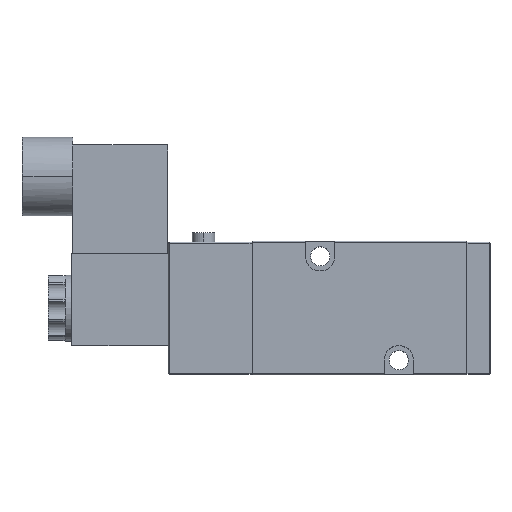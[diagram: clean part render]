
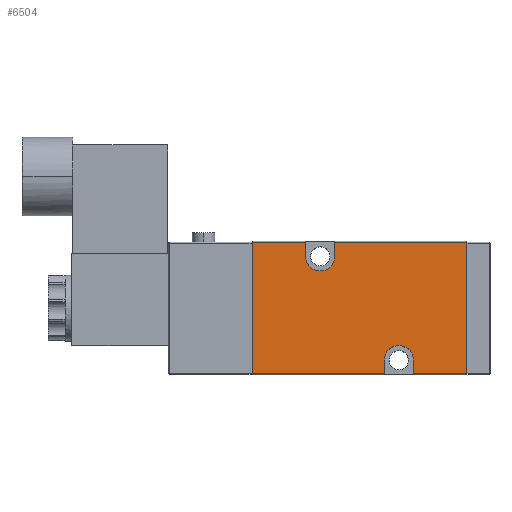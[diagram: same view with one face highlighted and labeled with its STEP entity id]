
A CAD part, top view. The second image highlights one B-rep face of the part: STEP entity #6504.
In plain terms, the highlighted planar face has unit normal (0, 0, 1).
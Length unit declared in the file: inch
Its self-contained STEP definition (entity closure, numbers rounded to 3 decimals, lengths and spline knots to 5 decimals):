
#67 = VERTEX_POINT ( 'NONE', #4156 ) ;
#159 = FACE_OUTER_BOUND ( 'NONE', #4361, .T. ) ;
#236 = DIRECTION ( 'NONE',  ( 1., 0., 0. ) ) ;
#245 = VERTEX_POINT ( 'NONE', #2979 ) ;
#327 = CIRCLE ( 'NONE', #5915, 0.175 ) ;
#359 = VECTOR ( 'NONE', #728, 39.37008 ) ;
#442 = VECTOR ( 'NONE', #3849, 39.37008 ) ;
#449 = DIRECTION ( 'NONE',  ( 1., 0., 0. ) ) ;
#454 = VECTOR ( 'NONE', #1100, 39.37008 ) ;
#531 = CARTESIAN_POINT ( 'NONE',  ( -1.285, -0.7975, 0.5315 ) ) ;
#699 = CARTESIAN_POINT ( 'NONE',  ( -1.285, 0.7975, 0.5315 ) ) ;
#728 = DIRECTION ( 'NONE',  ( -1., 0., 0. ) ) ;
#916 = LINE ( 'NONE', #5993, #3417 ) ;
#971 = VERTEX_POINT ( 'NONE', #2587 ) ;
#998 = CARTESIAN_POINT ( 'NONE',  ( -0.295, 0.7875, 0.5315 ) ) ;
#1028 = VERTEX_POINT ( 'NONE', #998 ) ;
#1079 = CARTESIAN_POINT ( 'NONE',  ( -0.645, -0.7975, 0.5315 ) ) ;
#1100 = DIRECTION ( 'NONE',  ( 1., 0., 0. ) ) ;
#1119 = CIRCLE ( 'NONE', #3648, 0.175 ) ;
#1191 = CARTESIAN_POINT ( 'NONE',  ( -0.295, 0.6185, 0.5315 ) ) ;
#1213 = VECTOR ( 'NONE', #3986, 39.37008 ) ;
#1377 = LINE ( 'NONE', #2472, #442 ) ;
#1451 = ORIENTED_EDGE ( 'NONE', *, *, #2771, .F. ) ;
#1522 = ORIENTED_EDGE ( 'NONE', *, *, #1642, .T. ) ;
#1593 = CARTESIAN_POINT ( 'NONE',  ( 0.295, -0.7875, 0.5315 ) ) ;
#1642 = EDGE_CURVE ( 'NONE', #4034, #5696, #3512, .T. ) ;
#1743 = DIRECTION ( 'NONE',  ( 0., 0., 1. ) ) ;
#1781 = CARTESIAN_POINT ( 'NONE',  ( 0.47, -0.6235, 0.5315 ) ) ;
#1860 = CARTESIAN_POINT ( 'NONE',  ( 1.285, -0.7875, 0.5315 ) ) ;
#2181 = AXIS2_PLACEMENT_3D ( 'NONE', #531, #1743, #5768 ) ;
#2293 = CARTESIAN_POINT ( 'NONE',  ( -1.285, 0.7875, 0.5315 ) ) ;
#2402 = EDGE_CURVE ( 'NONE', #5696, #5975, #5436, .T. ) ;
#2463 = VECTOR ( 'NONE', #3089, 39.37008 ) ;
#2472 = CARTESIAN_POINT ( 'NONE',  ( -0.295, 0.6185, 0.5315 ) ) ;
#2587 = CARTESIAN_POINT ( 'NONE',  ( -0.645, 0.7875, 0.5315 ) ) ;
#2624 = ORIENTED_EDGE ( 'NONE', *, *, #5821, .F. ) ;
#2712 = DIRECTION ( 'NONE',  ( 0., -1., 0. ) ) ;
#2722 = ORIENTED_EDGE ( 'NONE', *, *, #4618, .T. ) ;
#2771 = EDGE_CURVE ( 'NONE', #4369, #1028, #1377, .T. ) ;
#2828 = CARTESIAN_POINT ( 'NONE',  ( -0.295, 0.7875, 0.5315 ) ) ;
#2951 = VECTOR ( 'NONE', #3856, 39.37008 ) ;
#2975 = ORIENTED_EDGE ( 'NONE', *, *, #6113, .F. ) ;
#2979 = CARTESIAN_POINT ( 'NONE',  ( -0.645, 0.6185, 0.5315 ) ) ;
#3089 = DIRECTION ( 'NONE',  ( 0., -1., 0. ) ) ;
#3300 = DIRECTION ( 'NONE',  ( 1., 0., 0. ) ) ;
#3338 = VERTEX_POINT ( 'NONE', #3834 ) ;
#3342 = ORIENTED_EDGE ( 'NONE', *, *, #4530, .F. ) ;
#3402 = EDGE_CURVE ( 'NONE', #245, #4369, #327, .T. ) ;
#3417 = VECTOR ( 'NONE', #4928, 39.37008 ) ;
#3472 = VERTEX_POINT ( 'NONE', #4984 ) ;
#3510 = CARTESIAN_POINT ( 'NONE',  ( 0.645, -0.6235, 0.5315 ) ) ;
#3512 = LINE ( 'NONE', #4896, #5586 ) ;
#3648 = AXIS2_PLACEMENT_3D ( 'NONE', #1781, #5808, #3300 ) ;
#3730 = LINE ( 'NONE', #2828, #359 ) ;
#3787 = ORIENTED_EDGE ( 'NONE', *, *, #3402, .F. ) ;
#3834 = CARTESIAN_POINT ( 'NONE',  ( -1.285, 0.7875, 0.5315 ) ) ;
#3849 = DIRECTION ( 'NONE',  ( 0., 1., 0. ) ) ;
#3856 = DIRECTION ( 'NONE',  ( 0., 1., 0. ) ) ;
#3918 = CARTESIAN_POINT ( 'NONE',  ( 1.285, 0.7975, 0.5315 ) ) ;
#3986 = DIRECTION ( 'NONE',  ( 0., 1., 0. ) ) ;
#4023 = CARTESIAN_POINT ( 'NONE',  ( 0.645, -0.7875, 0.5315 ) ) ;
#4034 = VERTEX_POINT ( 'NONE', #4023 ) ;
#4134 = LINE ( 'NONE', #1079, #2463 ) ;
#4135 = EDGE_CURVE ( 'NONE', #67, #3472, #6095, .T. ) ;
#4156 = CARTESIAN_POINT ( 'NONE',  ( -1.285, -0.7875, 0.5315 ) ) ;
#4182 = PLANE ( 'NONE',  #2181 ) ;
#4342 = VERTEX_POINT ( 'NONE', #3510 ) ;
#4361 = EDGE_LOOP ( 'NONE', ( #4745, #5034, #2975, #2624, #6093, #1522, #5075, #5621, #1451, #3787, #3342, #2722 ) ) ;
#4369 = VERTEX_POINT ( 'NONE', #1191 ) ;
#4472 = CARTESIAN_POINT ( 'NONE',  ( 0.295, -0.6235, 0.5315 ) ) ;
#4530 = EDGE_CURVE ( 'NONE', #971, #245, #4134, .T. ) ;
#4618 = EDGE_CURVE ( 'NONE', #971, #3338, #6211, .T. ) ;
#4745 = ORIENTED_EDGE ( 'NONE', *, *, #5979, .T. ) ;
#4896 = CARTESIAN_POINT ( 'NONE',  ( 1.285, -0.7875, 0.5315 ) ) ;
#4928 = DIRECTION ( 'NONE',  ( 0., -1., 0. ) ) ;
#4984 = CARTESIAN_POINT ( 'NONE',  ( 0.295, -0.7875, 0.5315 ) ) ;
#5034 = ORIENTED_EDGE ( 'NONE', *, *, #4135, .T. ) ;
#5060 = EDGE_CURVE ( 'NONE', #4034, #4342, #6454, .T. ) ;
#5075 = ORIENTED_EDGE ( 'NONE', *, *, #2402, .T. ) ;
#5117 = CARTESIAN_POINT ( 'NONE',  ( 1.285, 0.7875, 0.5315 ) ) ;
#5209 = LINE ( 'NONE', #699, #5413 ) ;
#5222 = DIRECTION ( 'NONE',  ( 0., 0., 1. ) ) ;
#5342 = DIRECTION ( 'NONE',  ( -1., 0., 0. ) ) ;
#5413 = VECTOR ( 'NONE', #2712, 39.37008 ) ;
#5435 = CARTESIAN_POINT ( 'NONE',  ( 0.645, -0.7975, 0.5315 ) ) ;
#5436 = LINE ( 'NONE', #3918, #2951 ) ;
#5484 = VERTEX_POINT ( 'NONE', #4472 ) ;
#5586 = VECTOR ( 'NONE', #449, 39.37008 ) ;
#5621 = ORIENTED_EDGE ( 'NONE', *, *, #6026, .T. ) ;
#5696 = VERTEX_POINT ( 'NONE', #1860 ) ;
#5731 = VECTOR ( 'NONE', #5342, 39.37008 ) ;
#5768 = DIRECTION ( 'NONE',  ( 1., 0., 0. ) ) ;
#5808 = DIRECTION ( 'NONE',  ( 0., 0., 1. ) ) ;
#5821 = EDGE_CURVE ( 'NONE', #4342, #5484, #1119, .T. ) ;
#5915 = AXIS2_PLACEMENT_3D ( 'NONE', #6245, #5222, #236 ) ;
#5975 = VERTEX_POINT ( 'NONE', #5117 ) ;
#5979 = EDGE_CURVE ( 'NONE', #3338, #67, #5209, .T. ) ;
#5993 = CARTESIAN_POINT ( 'NONE',  ( 0.295, -0.6235, 0.5315 ) ) ;
#6026 = EDGE_CURVE ( 'NONE', #5975, #1028, #3730, .T. ) ;
#6093 = ORIENTED_EDGE ( 'NONE', *, *, #5060, .F. ) ;
#6095 = LINE ( 'NONE', #1593, #454 ) ;
#6113 = EDGE_CURVE ( 'NONE', #5484, #3472, #916, .T. ) ;
#6211 = LINE ( 'NONE', #2293, #5731 ) ;
#6245 = CARTESIAN_POINT ( 'NONE',  ( -0.47, 0.6185, 0.5315 ) ) ;
#6454 = LINE ( 'NONE', #5435, #1213 ) ;
#6504 = ADVANCED_FACE ( 'NONE', ( #159 ), #4182, .T. ) ;
